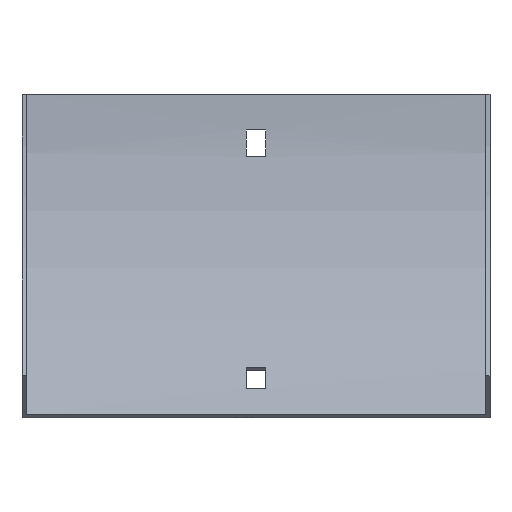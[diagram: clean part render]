
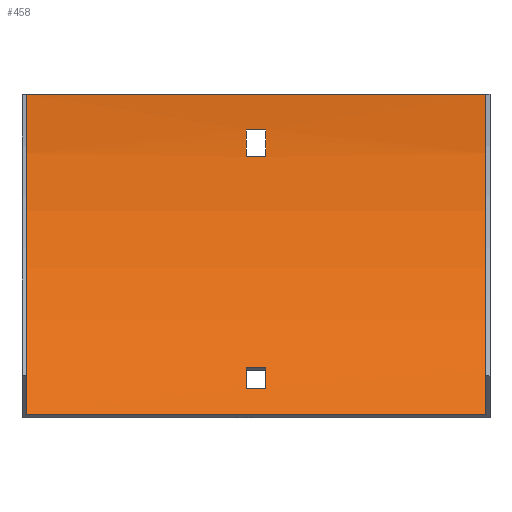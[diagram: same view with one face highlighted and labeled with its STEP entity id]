
A CAD part, front view. The second image highlights one B-rep face of the part: STEP entity #458.
In plain terms, the highlighted cylindrical face has radius 152 mm (diameter 304 mm), a partial arc.
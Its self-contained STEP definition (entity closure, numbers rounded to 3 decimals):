
#1 = DIRECTION ( 'NONE',  ( -1., 0., 0. ) ) ;
#8 = DIRECTION ( 'NONE',  ( 1., 0., 0. ) ) ;
#12 = CARTESIAN_POINT ( 'NONE',  ( -3.25, -2.958, -21. ) ) ;
#23 = DIRECTION ( 'NONE',  ( 1., 0., 0. ) ) ;
#31 = EDGE_CURVE ( 'NONE', #427, #379, #498, .T. ) ;
#32 = CARTESIAN_POINT ( 'NONE',  ( 3.25, -32.201, -91.6 ) ) ;
#40 = ORIENTED_EDGE ( 'NONE', *, *, #267, .T. ) ;
#43 = EDGE_CURVE ( 'NONE', #513, #402, #523, .T. ) ;
#45 = CIRCLE ( 'NONE', #597, 152. ) ;
#47 = LINE ( 'NONE', #325, #466 ) ;
#51 = LINE ( 'NONE', #56, #203 ) ;
#56 = CARTESIAN_POINT ( 'NONE',  ( 78.5, -2.958, -21. ) ) ;
#57 = VERTEX_POINT ( 'NONE', #297 ) ;
#59 = CARTESIAN_POINT ( 'NONE',  ( 78.5, -1.974, -12. ) ) ;
#61 = DIRECTION ( 'NONE',  ( -1., 0., 0. ) ) ;
#62 = EDGE_CURVE ( 'NONE', #169, #57, #389, .T. ) ;
#65 = ORIENTED_EDGE ( 'NONE', *, *, #592, .F. ) ;
#72 = EDGE_LOOP ( 'NONE', ( #202, #217, #40, #126 ) ) ;
#84 = DIRECTION ( 'NONE',  ( 0., 0., 1. ) ) ;
#88 = ORIENTED_EDGE ( 'NONE', *, *, #243, .T. ) ;
#89 = EDGE_CURVE ( 'NONE', #456, #122, #147, .T. ) ;
#90 = DIRECTION ( 'NONE',  ( -1., 0., 0. ) ) ;
#94 = LINE ( 'NONE', #422, #231 ) ;
#99 = CARTESIAN_POINT ( 'NONE',  ( -3.25, -1.974, -12. ) ) ;
#122 = VERTEX_POINT ( 'NONE', #183 ) ;
#126 = ORIENTED_EDGE ( 'NONE', *, *, #62, .T. ) ;
#129 = CARTESIAN_POINT ( 'NONE',  ( 78.5, -153.5, 0. ) ) ;
#134 = FACE_BOUND ( 'NONE', #138, .T. ) ;
#138 = EDGE_LOOP ( 'NONE', ( #399, #355, #591, #215 ) ) ;
#142 = CARTESIAN_POINT ( 'NONE',  ( 3.25, -1.974, -12. ) ) ;
#143 = CARTESIAN_POINT ( 'NONE',  ( 3.25, -153.5, 0. ) ) ;
#147 = LINE ( 'NONE', #342, #366 ) ;
#150 = DIRECTION ( 'NONE',  ( 1., 0., 0. ) ) ;
#156 = CARTESIAN_POINT ( 'NONE',  ( 3.25, -153.5, 0. ) ) ;
#169 = VERTEX_POINT ( 'NONE', #32 ) ;
#175 = AXIS2_PLACEMENT_3D ( 'NONE', #483, #61, #570 ) ;
#177 = FACE_BOUND ( 'NONE', #72, .T. ) ;
#179 = EDGE_CURVE ( 'NONE', #379, #513, #51, .T. ) ;
#183 = CARTESIAN_POINT ( 'NONE',  ( -77., -1.5, 0. ) ) ;
#187 = DIRECTION ( 'NONE',  ( 1., 0., 0. ) ) ;
#202 = ORIENTED_EDGE ( 'NONE', *, *, #501, .T. ) ;
#203 = VECTOR ( 'NONE', #8, 1000. ) ;
#210 = CARTESIAN_POINT ( 'NONE',  ( 78.5, -32.201, -91.6 ) ) ;
#215 = ORIENTED_EDGE ( 'NONE', *, *, #179, .F. ) ;
#217 = ORIENTED_EDGE ( 'NONE', *, *, #469, .T. ) ;
#227 = VERTEX_POINT ( 'NONE', #343 ) ;
#228 = CARTESIAN_POINT ( 'NONE',  ( 3.25, -2.958, -21. ) ) ;
#231 = VECTOR ( 'NONE', #1, 1000. ) ;
#242 = DIRECTION ( 'NONE',  ( 1., 0., 0. ) ) ;
#243 = EDGE_CURVE ( 'NONE', #362, #456, #45, .T. ) ;
#267 = EDGE_CURVE ( 'NONE', #227, #169, #439, .T. ) ;
#281 = VECTOR ( 'NONE', #289, 1000. ) ;
#284 = ORIENTED_EDGE ( 'NONE', *, *, #89, .T. ) ;
#289 = DIRECTION ( 'NONE',  ( -1., 0., 0. ) ) ;
#297 = CARTESIAN_POINT ( 'NONE',  ( 3.25, -37.87, -98.659 ) ) ;
#298 = CIRCLE ( 'NONE', #371, 152. ) ;
#300 = CARTESIAN_POINT ( 'NONE',  ( 77., -46.02, -107.48 ) ) ;
#305 = DIRECTION ( 'NONE',  ( 0., 0., 1. ) ) ;
#309 = VERTEX_POINT ( 'NONE', #575 ) ;
#317 = CIRCLE ( 'NONE', #367, 152. ) ;
#325 = CARTESIAN_POINT ( 'NONE',  ( 77., -46.02, -107.48 ) ) ;
#342 = CARTESIAN_POINT ( 'NONE',  ( 77., -1.5, 0. ) ) ;
#343 = CARTESIAN_POINT ( 'NONE',  ( -3.25, -32.201, -91.6 ) ) ;
#347 = AXIS2_PLACEMENT_3D ( 'NONE', #156, #468, #524 ) ;
#351 = DIRECTION ( 'NONE',  ( 0., 0., 1. ) ) ;
#355 = ORIENTED_EDGE ( 'NONE', *, *, #504, .F. ) ;
#362 = VERTEX_POINT ( 'NONE', #300 ) ;
#366 = VECTOR ( 'NONE', #476, 1000. ) ;
#367 = AXIS2_PLACEMENT_3D ( 'NONE', #565, #533, #351 ) ;
#371 = AXIS2_PLACEMENT_3D ( 'NONE', #467, #187, #566 ) ;
#379 = VERTEX_POINT ( 'NONE', #12 ) ;
#389 = CIRCLE ( 'NONE', #347, 152. ) ;
#399 = ORIENTED_EDGE ( 'NONE', *, *, #31, .F. ) ;
#402 = VERTEX_POINT ( 'NONE', #142 ) ;
#405 = ORIENTED_EDGE ( 'NONE', *, *, #461, .F. ) ;
#410 = DIRECTION ( 'NONE',  ( -1., 0., 0. ) ) ;
#422 = CARTESIAN_POINT ( 'NONE',  ( 78.5, -37.87, -98.659 ) ) ;
#427 = VERTEX_POINT ( 'NONE', #99 ) ;
#439 = LINE ( 'NONE', #210, #490 ) ;
#441 = CARTESIAN_POINT ( 'NONE',  ( -3.25, -37.87, -98.659 ) ) ;
#455 = AXIS2_PLACEMENT_3D ( 'NONE', #129, #410, #84 ) ;
#456 = VERTEX_POINT ( 'NONE', #601 ) ;
#458 = ADVANCED_FACE ( 'NONE', ( #134, #502, #177 ), #554, .F. ) ;
#461 = EDGE_CURVE ( 'NONE', #309, #122, #317, .T. ) ;
#466 = VECTOR ( 'NONE', #90, 1000. ) ;
#467 = CARTESIAN_POINT ( 'NONE',  ( -3.25, -153.5, 0. ) ) ;
#468 = DIRECTION ( 'NONE',  ( -1., 0., 0. ) ) ;
#469 = EDGE_CURVE ( 'NONE', #595, #227, #298, .T. ) ;
#476 = DIRECTION ( 'NONE',  ( -1., 0., 0. ) ) ;
#483 = CARTESIAN_POINT ( 'NONE',  ( -3.25, -153.5, 0. ) ) ;
#484 = CARTESIAN_POINT ( 'NONE',  ( 77., -153.5, 0. ) ) ;
#490 = VECTOR ( 'NONE', #242, 1000. ) ;
#498 = CIRCLE ( 'NONE', #175, 152. ) ;
#500 = EDGE_LOOP ( 'NONE', ( #405, #65, #88, #284 ) ) ;
#501 = EDGE_CURVE ( 'NONE', #57, #595, #94, .T. ) ;
#502 = FACE_OUTER_BOUND ( 'NONE', #500, .T. ) ;
#504 = EDGE_CURVE ( 'NONE', #402, #427, #516, .T. ) ;
#513 = VERTEX_POINT ( 'NONE', #228 ) ;
#516 = LINE ( 'NONE', #59, #281 ) ;
#523 = CIRCLE ( 'NONE', #603, 152. ) ;
#524 = DIRECTION ( 'NONE',  ( 0., 0., 1. ) ) ;
#533 = DIRECTION ( 'NONE',  ( 1., 0., 0. ) ) ;
#535 = DIRECTION ( 'NONE',  ( 0., 0., -1. ) ) ;
#554 = CYLINDRICAL_SURFACE ( 'NONE', #455, 152. ) ;
#565 = CARTESIAN_POINT ( 'NONE',  ( -77., -153.5, 0. ) ) ;
#566 = DIRECTION ( 'NONE',  ( 0., 0., -1. ) ) ;
#570 = DIRECTION ( 'NONE',  ( 0., 0., 1. ) ) ;
#575 = CARTESIAN_POINT ( 'NONE',  ( -77., -46.02, -107.48 ) ) ;
#591 = ORIENTED_EDGE ( 'NONE', *, *, #43, .F. ) ;
#592 = EDGE_CURVE ( 'NONE', #362, #309, #47, .T. ) ;
#595 = VERTEX_POINT ( 'NONE', #441 ) ;
#597 = AXIS2_PLACEMENT_3D ( 'NONE', #484, #23, #305 ) ;
#601 = CARTESIAN_POINT ( 'NONE',  ( 77., -1.5, 0. ) ) ;
#603 = AXIS2_PLACEMENT_3D ( 'NONE', #143, #150, #535 ) ;
